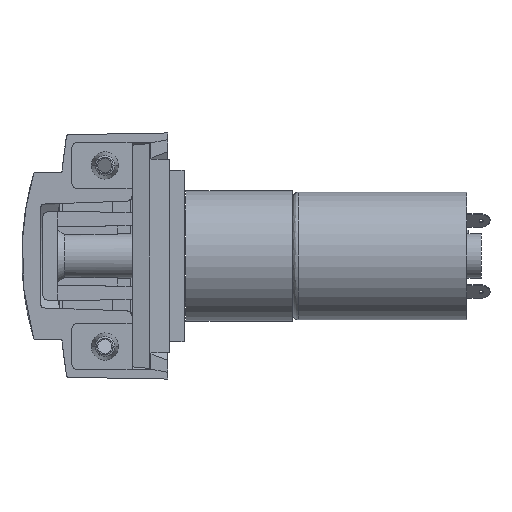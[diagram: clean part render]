
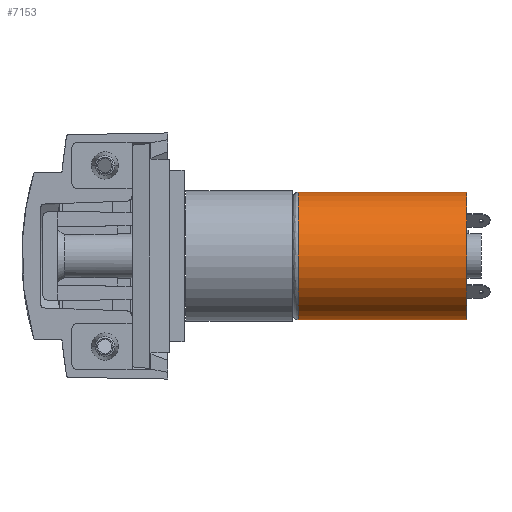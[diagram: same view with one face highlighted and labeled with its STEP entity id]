
A CAD part, front view. The second image highlights one B-rep face of the part: STEP entity #7153.
In plain terms, the highlighted cylindrical face has radius 10.8 mm (diameter 21.6 mm), a partial arc.
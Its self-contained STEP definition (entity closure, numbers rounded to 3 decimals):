
#135 = CARTESIAN_POINT ( 'NONE',  ( 19., 0., 0. ) ) ;
#509 = LINE ( 'NONE', #13156, #20447 ) ;
#600 = EDGE_CURVE ( 'NONE', #13762, #5544, #15791, .T. ) ;
#1071 = VERTEX_POINT ( 'NONE', #2928 ) ;
#1318 = CARTESIAN_POINT ( 'NONE',  ( 19., 0., -10.8 ) ) ;
#2928 = CARTESIAN_POINT ( 'NONE',  ( 19., 0., 10.8 ) ) ;
#3502 = CARTESIAN_POINT ( 'NONE',  ( -14.5, 0., 0. ) ) ;
#3510 = CARTESIAN_POINT ( 'NONE',  ( -14.5, 0., -10.8 ) ) ;
#4029 = VECTOR ( 'NONE', #12516, 1000. ) ;
#5544 = VERTEX_POINT ( 'NONE', #10441 ) ;
#5655 = DIRECTION ( 'NONE',  ( -1., 0., 0. ) ) ;
#7027 = DIRECTION ( 'NONE',  ( -1., 0., 0. ) ) ;
#7153 = ADVANCED_FACE ( 'NONE', ( #16017 ), #23065, .T. ) ;
#8167 = ORIENTED_EDGE ( 'NONE', *, *, #11734, .T. ) ;
#8241 = CIRCLE ( 'NONE', #11595, 10.8 ) ;
#8788 = ORIENTED_EDGE ( 'NONE', *, *, #20866, .F. ) ;
#9107 = LINE ( 'NONE', #3510, #4029 ) ;
#9318 = ORIENTED_EDGE ( 'NONE', *, *, #600, .T. ) ;
#9966 = CARTESIAN_POINT ( 'NONE',  ( 47.5, 0., -10.8 ) ) ;
#10441 = CARTESIAN_POINT ( 'NONE',  ( 47.5, 0., 10.8 ) ) ;
#11595 = AXIS2_PLACEMENT_3D ( 'NONE', #135, #19683, #14414 ) ;
#11734 = EDGE_CURVE ( 'NONE', #5544, #1071, #509, .T. ) ;
#12516 = DIRECTION ( 'NONE',  ( -1., 0., 0. ) ) ;
#13156 = CARTESIAN_POINT ( 'NONE',  ( -14.5, 0., 10.8 ) ) ;
#13762 = VERTEX_POINT ( 'NONE', #9966 ) ;
#14414 = DIRECTION ( 'NONE',  ( 0., 0., 1. ) ) ;
#14597 = ORIENTED_EDGE ( 'NONE', *, *, #14829, .T. ) ;
#14829 = EDGE_CURVE ( 'NONE', #1071, #16050, #8241, .T. ) ;
#15791 = CIRCLE ( 'NONE', #21416, 10.8 ) ;
#16017 = FACE_OUTER_BOUND ( 'NONE', #21218, .T. ) ;
#16050 = VERTEX_POINT ( 'NONE', #1318 ) ;
#17886 = DIRECTION ( 'NONE',  ( 0., 0., 1. ) ) ;
#19683 = DIRECTION ( 'NONE',  ( 1., 0., 0. ) ) ;
#20447 = VECTOR ( 'NONE', #5655, 1000. ) ;
#20762 = DIRECTION ( 'NONE',  ( 0., 0., 1. ) ) ;
#20866 = EDGE_CURVE ( 'NONE', #13762, #16050, #9107, .T. ) ;
#21218 = EDGE_LOOP ( 'NONE', ( #8788, #9318, #8167, #14597 ) ) ;
#21309 = DIRECTION ( 'NONE',  ( -1., 0., 0. ) ) ;
#21416 = AXIS2_PLACEMENT_3D ( 'NONE', #22855, #7027, #20762 ) ;
#22855 = CARTESIAN_POINT ( 'NONE',  ( 47.5, 0., 0. ) ) ;
#23065 = CYLINDRICAL_SURFACE ( 'NONE', #23088, 10.8 ) ;
#23088 = AXIS2_PLACEMENT_3D ( 'NONE', #3502, #21309, #17886 ) ;
